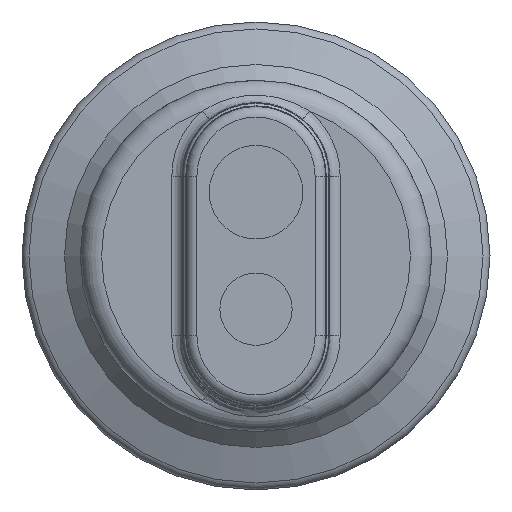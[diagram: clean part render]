
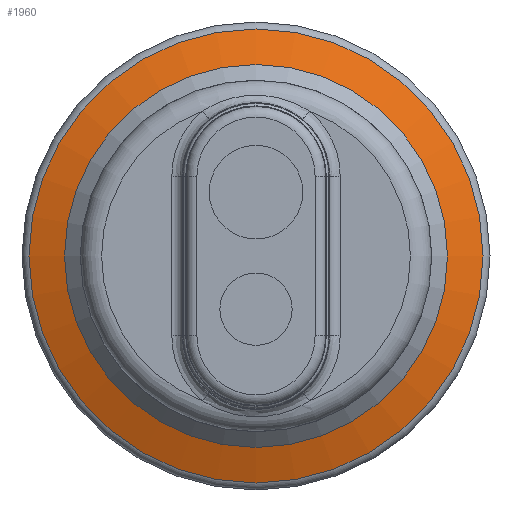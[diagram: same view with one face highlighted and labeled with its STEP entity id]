
A CAD part, left-side view. The second image highlights one B-rep face of the part: STEP entity #1960.
In plain terms, the highlighted conical face has half-angle 70 degrees and reference radius 9.835 mm.
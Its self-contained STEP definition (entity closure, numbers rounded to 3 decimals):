
#1926=CARTESIAN_POINT('',(-11.546,9.,0.0));
#1927=VERTEX_POINT('',#1926);
#1928=CARTESIAN_POINT('',(-11.546,0.,0.0));
#1929=DIRECTION('',(1.0,0.0,0.0));
#1930=DIRECTION('',(0.0,1.0,0.0));
#1931=AXIS2_PLACEMENT_3D('',#1928,#1929,#1930);
#1932=CIRCLE('',#1931,9.);
#1933=EDGE_CURVE('',#1927,#1927,#1932,.T.);
#1941=CARTESIAN_POINT('',(-11.242,0.,0.0));
#1942=DIRECTION('',(1.0,0.,0.0));
#1943=DIRECTION('',(0.0,1.0,0.0));
#1944=AXIS2_PLACEMENT_3D('',#1941,#1942,#1943);
#1945=CONICAL_SURFACE('',#1944,9.836,70.);
#1946=CARTESIAN_POINT('',(-10.937,10.671,0.0));
#1947=VERTEX_POINT('',#1946);
#1948=CARTESIAN_POINT('',(-10.937,0.,0.0));
#1949=DIRECTION('',(1.0,0.0,0.0));
#1950=DIRECTION('',(0.0,1.0,0.0));
#1951=AXIS2_PLACEMENT_3D('',#1948,#1949,#1950);
#1952=CIRCLE('',#1951,10.671);
#1953=EDGE_CURVE('',#1947,#1947,#1952,.T.);
#1954=ORIENTED_EDGE('',*,*,#1953,.F.);
#1955=EDGE_LOOP('',(#1954));
#1956=FACE_OUTER_BOUND('',#1955,.T.);
#1957=ORIENTED_EDGE('',*,*,#1933,.T.);
#1958=EDGE_LOOP('',(#1957));
#1959=FACE_BOUND('',#1958,.T.);
#1960=ADVANCED_FACE('',(#1956,#1959),#1945,.T.);
